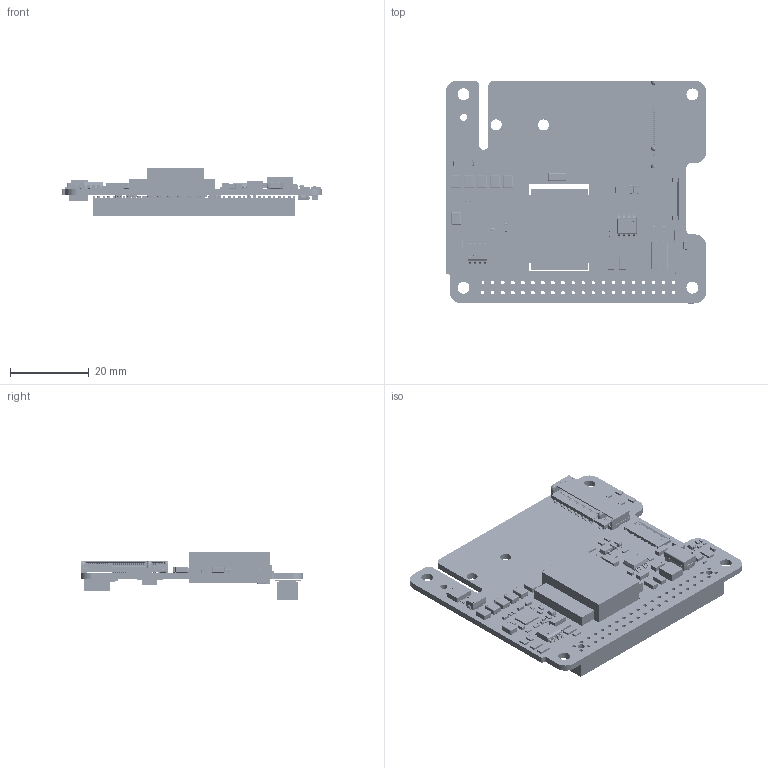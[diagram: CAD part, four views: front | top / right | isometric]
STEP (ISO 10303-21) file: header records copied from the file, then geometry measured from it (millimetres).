
FILE_DESCRIPTION(('Open CASCADE Model'),'2;1');
FILE_NAME('Open CASCADE Shape Model','2025-06-05T16:08:32',('Author'),( 'Open CASCADE'),'Open CASCADE STEP processor 6.5','Open CASCADE 6.5' ,'Unknown');
FILE_SCHEMA(('AUTOMOTIVE_DESIGN { 1 0 10303 214 1 1 1 1 }'));
Length unit declared in the file: millimetre
Products named in the file (227): PCB; Board; C4; User_Library-AVX_D_CASE; U4; 675601424; Extruded; 675601552; R37; R0603; R_0603-3615_AF0_ASM; R_0603-3601_AF0_ASM; _2_1_2_3_4_AF0; _7_1_2_AF0; 5_1_2_3_400; R35; R34; R33; R32; R31; R30; R29; R28; R26; R25; R24; R23; R22; Q11; SOT-23; Q10; Q9; Q8; P2; FPC0.5_2H-S-W-16P; FPC0_5_2H-S-W-16P-18550_ASM; FPC0_5_2H-W__1_2_30010; FPC0_5_2H-S-W-16P-11186_ASM; 6_1_2_3_4_5_6_7_8_0004; 7_1_2_3_4_5_6_7_8_0006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
Assembly tree (353 placements, depth 6):
  PCB
    Board
    C4
      User_Library-AVX_D_CASE
    U4
      675601424  x6
        Extruded
      675601552
        Extruded
    R37
      R0603
        R_0603-3615_AF0_ASM
          R_0603-3601_AF0_ASM
            _2_1_2_3_4_AF0
            _7_1_2_AF0
            5_1_2_3_400
    R35
      R0603
        R_0603-3615_AF0_ASM
          R_0603-3601_AF0_ASM
            _2_1_2_3_4_AF0
            _7_1_2_AF0
            5_1_2_3_400
    R34
      R0603
        R_0603-3615_AF0_ASM
          R_0603-3601_AF0_ASM
            _2_1_2_3_4_AF0
            _7_1_2_AF0
            5_1_2_3_400
    R33
      R0603
        R_0603-3615_AF0_ASM
          R_0603-3601_AF0_ASM
            _2_1_2_3_4_AF0
            _7_1_2_AF0
            5_1_2_3_400
    R32
      R0603
        R_0603-3615_AF0_ASM
          R_0603-3601_AF0_ASM
            _2_1_2_3_4_AF0
            _7_1_2_AF0
            5_1_2_3_400
    R31
      R0603
        R_0603-3615_AF0_ASM
          R_0603-3601_AF0_ASM
            _2_1_2_3_4_AF0
            _7_1_2_AF0
            5_1_2_3_400
    R30
      R0603
        R_0603-3615_AF0_ASM
          R_0603-3601_AF0_ASM
            _2_1_2_3_4_AF0
            _7_1_2_AF0
            5_1_2_3_400
    R29
      R0603
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Bounding box: 66.02 x 56.52 x 12 mm (x, y, z)
Volume: 10261.8 mm3; surface area: 15272.6 mm2
Topology: 306 solids, 306 shells, 42223 faces, 113394 edges, 74914 vertices
Faces by surface type: plane 29962, extrusion 9205, cylinder 1931, bspline 743, sphere 376, cone 4, torus 2
Full cylindrical faces by diameter (mm): 0.95 x40, 1.3 x1, 1.8 x4, 2.8 x2
Entity records: 813621 total; most frequent: CARTESIAN_POINT 277786, DIRECTION 80827, VECTOR 59989, LINE 58492, ORIENTED_EDGE 52594, PCURVE 52594, DEFINITIONAL_REPRESENTATION 52594, EDGE_CURVE 26297
